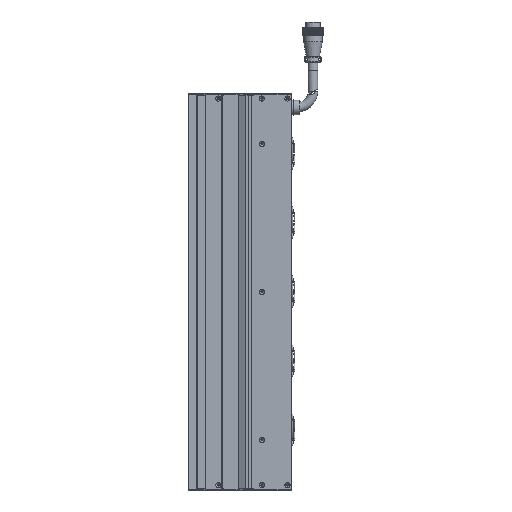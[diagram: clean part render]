
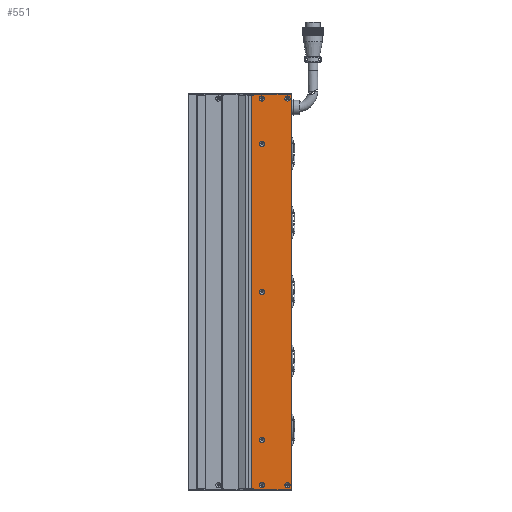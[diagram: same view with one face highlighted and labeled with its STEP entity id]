
A CAD part, left-side view. The second image highlights one B-rep face of the part: STEP entity #551.
In plain terms, the highlighted planar face has unit normal (-1, 0, 0).
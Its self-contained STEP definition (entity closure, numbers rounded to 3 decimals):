
#551 = ADVANCED_FACE ( 'NONE', ( #30343, #67496, #101993, #64863, #99347, #98218, #67621, #34250 ), #45425, .F. ) ;
#941 = CARTESIAN_POINT ( 'NONE',  ( -24.998, -72.5, 239. ) ) ;
#985 = VECTOR ( 'NONE', #12268, 1000. ) ;
#3382 = VECTOR ( 'NONE', #52796, 1000. ) ;
#3433 = AXIS2_PLACEMENT_3D ( 'NONE', #89117, #45786, #11270 ) ;
#5358 = CARTESIAN_POINT ( 'NONE',  ( -24.998, -26.5, 232. ) ) ;
#5385 = EDGE_LOOP ( 'NONE', ( #97738 ) ) ;
#6452 = DIRECTION ( 'NONE',  ( 0., 0., -1. ) ) ;
#8739 = ORIENTED_EDGE ( 'NONE', *, *, #89067, .F. ) ;
#10578 = DIRECTION ( 'NONE',  ( 0., 0., 1. ) ) ;
#10675 = CIRCLE ( 'NONE', #21759, 3.15 ) ;
#10932 = EDGE_CURVE ( 'NONE', #102651, #102651, #10675, .T. ) ;
#11270 = DIRECTION ( 'NONE',  ( 0., 0., -1. ) ) ;
#11345 = LINE ( 'NONE', #19034, #3382 ) ;
#11428 = EDGE_CURVE ( 'NONE', #65502, #65502, #100310, .T. ) ;
#11457 = ORIENTED_EDGE ( 'NONE', *, *, #86121, .F. ) ;
#12268 = DIRECTION ( 'NONE',  ( 0., 0., 1. ) ) ;
#12853 = DIRECTION ( 'NONE',  ( -1., 0., 0. ) ) ;
#13851 = CARTESIAN_POINT ( 'NONE',  ( -24.998, -72., 240.5 ) ) ;
#15540 = LINE ( 'NONE', #107374, #20852 ) ;
#16767 = CARTESIAN_POINT ( 'NONE',  ( -24.998, -23.25, -239. ) ) ;
#17701 = EDGE_LOOP ( 'NONE', ( #34067 ) ) ;
#17783 = ORIENTED_EDGE ( 'NONE', *, *, #77058, .T. ) ;
#19031 = LINE ( 'NONE', #941, #46985 ) ;
#19034 = CARTESIAN_POINT ( 'NONE',  ( -24.998, -72.5, -239. ) ) ;
#19681 = EDGE_LOOP ( 'NONE', ( #80431 ) ) ;
#20852 = VECTOR ( 'NONE', #56501, 1000. ) ;
#20861 = CARTESIAN_POINT ( 'NONE',  ( -24.998, -67.5, 238.15 ) ) ;
#21260 = CARTESIAN_POINT ( 'NONE',  ( -24.998, -36.5, -180. ) ) ;
#21759 = AXIS2_PLACEMENT_3D ( 'NONE', #87915, #45315, #96821 ) ;
#23189 = VERTEX_POINT ( 'NONE', #88355 ) ;
#23509 = LINE ( 'NONE', #104656, #985 ) ;
#25545 = VERTEX_POINT ( 'NONE', #103475 ) ;
#27965 = EDGE_CURVE ( 'NONE', #25545, #25545, #31859, .T. ) ;
#30284 = EDGE_LOOP ( 'NONE', ( #101528 ) ) ;
#30343 = FACE_BOUND ( 'NONE', #96924, .T. ) ;
#30987 = CARTESIAN_POINT ( 'NONE',  ( -24.998, -36.5, 180. ) ) ;
#31859 = CIRCLE ( 'NONE', #90018, 3.15 ) ;
#32627 = CARTESIAN_POINT ( 'NONE',  ( -24.998, -36.5, -231.85 ) ) ;
#32919 = AXIS2_PLACEMENT_3D ( 'NONE', #51743, #85137, #10578 ) ;
#33341 = CARTESIAN_POINT ( 'NONE',  ( -24.998, -67.5, -231.85 ) ) ;
#33745 = AXIS2_PLACEMENT_3D ( 'NONE', #21260, #80685, #38317 ) ;
#34067 = ORIENTED_EDGE ( 'NONE', *, *, #11428, .F. ) ;
#34250 = FACE_OUTER_BOUND ( 'NONE', #40382, .T. ) ;
#36831 = VECTOR ( 'NONE', #6452, 1000. ) ;
#37247 = VERTEX_POINT ( 'NONE', #20861 ) ;
#38317 = DIRECTION ( 'NONE',  ( 0., 0., 1. ) ) ;
#38818 = AXIS2_PLACEMENT_3D ( 'NONE', #94846, #12853, #88868 ) ;
#39692 = CARTESIAN_POINT ( 'NONE',  ( -24.998, -36.5, 235. ) ) ;
#40102 = EDGE_LOOP ( 'NONE', ( #11457 ) ) ;
#40382 = EDGE_LOOP ( 'NONE', ( #74134, #81738, #8739, #82676, #87991, #17783, #71484, #78927 ) ) ;
#40538 = EDGE_CURVE ( 'NONE', #101162, #101162, #77186, .T. ) ;
#43333 = ORIENTED_EDGE ( 'NONE', *, *, #100781, .F. ) ;
#43789 = CARTESIAN_POINT ( 'NONE',  ( -24.998, -36.5, 0. ) ) ;
#44069 = EDGE_CURVE ( 'NONE', #89277, #23189, #11345, .T. ) ;
#45315 = DIRECTION ( 'NONE',  ( -1., 0., 0. ) ) ;
#45425 = PLANE ( 'NONE',  #3433 ) ;
#45786 = DIRECTION ( 'NONE',  ( 1., 0., 0. ) ) ;
#46211 = CARTESIAN_POINT ( 'NONE',  ( -24.998, -72.5, -240.5 ) ) ;
#46450 = VERTEX_POINT ( 'NONE', #87669 ) ;
#46451 = EDGE_CURVE ( 'NONE', #48101, #48101, #61373, .T. ) ;
#46985 = VECTOR ( 'NONE', #93278, 1000. ) ;
#48101 = VERTEX_POINT ( 'NONE', #70466 ) ;
#49557 = EDGE_CURVE ( 'NONE', #91340, #82117, #15540, .T. ) ;
#51743 = CARTESIAN_POINT ( 'NONE',  ( -24.998, -67.5, 235. ) ) ;
#52022 = EDGE_CURVE ( 'NONE', #82553, #23189, #83058, .T. ) ;
#52796 = DIRECTION ( 'NONE',  ( 0., -1., 0. ) ) ;
#53871 = CARTESIAN_POINT ( 'NONE',  ( -24.998, -23.25, 239. ) ) ;
#54341 = EDGE_CURVE ( 'NONE', #89277, #70320, #106585, .T. ) ;
#55863 = DIRECTION ( 'NONE',  ( -1., 0., 0. ) ) ;
#56501 = DIRECTION ( 'NONE',  ( 0., 1., 0. ) ) ;
#59969 = ORIENTED_EDGE ( 'NONE', *, *, #27965, .F. ) ;
#60460 = VECTOR ( 'NONE', #81280, 1000. ) ;
#61373 = CIRCLE ( 'NONE', #65853, 3.15 ) ;
#61418 = VECTOR ( 'NONE', #84937, 1000. ) ;
#64863 = FACE_BOUND ( 'NONE', #30284, .T. ) ;
#65502 = VERTEX_POINT ( 'NONE', #32627 ) ;
#65617 = CARTESIAN_POINT ( 'NONE',  ( -24.998, -26.5, -232. ) ) ;
#65853 = AXIS2_PLACEMENT_3D ( 'NONE', #30987, #55863, #81884 ) ;
#67496 = FACE_BOUND ( 'NONE', #40102, .T. ) ;
#67621 = FACE_BOUND ( 'NONE', #17701, .T. ) ;
#69084 = AXIS2_PLACEMENT_3D ( 'NONE', #43789, #69408, #107597 ) ;
#69408 = DIRECTION ( 'NONE',  ( -1., 0., 0. ) ) ;
#70320 = VERTEX_POINT ( 'NONE', #53871 ) ;
#70466 = CARTESIAN_POINT ( 'NONE',  ( -24.998, -36.5, 183.15 ) ) ;
#70505 = CARTESIAN_POINT ( 'NONE',  ( -24.998, -26.5, 240.5 ) ) ;
#70830 = CARTESIAN_POINT ( 'NONE',  ( -24.998, -36.5, 3.15 ) ) ;
#71484 = ORIENTED_EDGE ( 'NONE', *, *, #98227, .F. ) ;
#74134 = ORIENTED_EDGE ( 'NONE', *, *, #44069, .T. ) ;
#77058 = EDGE_CURVE ( 'NONE', #82117, #92358, #97981, .T. ) ;
#77186 = CIRCLE ( 'NONE', #69084, 3.15 ) ;
#78265 = EDGE_CURVE ( 'NONE', #94051, #91340, #23509, .T. ) ;
#78927 = ORIENTED_EDGE ( 'NONE', *, *, #54341, .F. ) ;
#80431 = ORIENTED_EDGE ( 'NONE', *, *, #10932, .F. ) ;
#80685 = DIRECTION ( 'NONE',  ( -1., 0., 0. ) ) ;
#81280 = DIRECTION ( 'NONE',  ( 0., 0., 1. ) ) ;
#81738 = ORIENTED_EDGE ( 'NONE', *, *, #52022, .F. ) ;
#81884 = DIRECTION ( 'NONE',  ( 0., 0., 1. ) ) ;
#82117 = VERTEX_POINT ( 'NONE', #70505 ) ;
#82553 = VERTEX_POINT ( 'NONE', #84398 ) ;
#82676 = ORIENTED_EDGE ( 'NONE', *, *, #78265, .T. ) ;
#83058 = LINE ( 'NONE', #65617, #60460 ) ;
#84398 = CARTESIAN_POINT ( 'NONE',  ( -24.998, -26.5, -240.5 ) ) ;
#84841 = VECTOR ( 'NONE', #89167, 1000. ) ;
#84937 = DIRECTION ( 'NONE',  ( 0., 0., 1. ) ) ;
#85137 = DIRECTION ( 'NONE',  ( -1., 0., 0. ) ) ;
#86121 = EDGE_CURVE ( 'NONE', #37247, #37247, #101066, .T. ) ;
#87669 = CARTESIAN_POINT ( 'NONE',  ( -24.998, -36.5, -176.85 ) ) ;
#87915 = CARTESIAN_POINT ( 'NONE',  ( -24.998, -67.5, -235. ) ) ;
#87991 = ORIENTED_EDGE ( 'NONE', *, *, #49557, .T. ) ;
#88355 = CARTESIAN_POINT ( 'NONE',  ( -24.998, -26.5, -239. ) ) ;
#88868 = DIRECTION ( 'NONE',  ( 0., 0., 1. ) ) ;
#89067 = EDGE_CURVE ( 'NONE', #94051, #82553, #105225, .T. ) ;
#89117 = CARTESIAN_POINT ( 'NONE',  ( -24.998, -72.5, 239. ) ) ;
#89167 = DIRECTION ( 'NONE',  ( 0., 1., 0. ) ) ;
#89277 = VERTEX_POINT ( 'NONE', #16767 ) ;
#90018 = AXIS2_PLACEMENT_3D ( 'NONE', #39692, #107972, #99069 ) ;
#91340 = VERTEX_POINT ( 'NONE', #13851 ) ;
#92358 = VERTEX_POINT ( 'NONE', #106503 ) ;
#93278 = DIRECTION ( 'NONE',  ( 0., -1., 0. ) ) ;
#94051 = VERTEX_POINT ( 'NONE', #99198 ) ;
#94846 = CARTESIAN_POINT ( 'NONE',  ( -24.998, -36.5, -235. ) ) ;
#96821 = DIRECTION ( 'NONE',  ( 0., 0., 1. ) ) ;
#96924 = EDGE_LOOP ( 'NONE', ( #43333 ) ) ;
#97095 = CIRCLE ( 'NONE', #33745, 3.15 ) ;
#97738 = ORIENTED_EDGE ( 'NONE', *, *, #40538, .F. ) ;
#97981 = LINE ( 'NONE', #5358, #36831 ) ;
#98218 = FACE_BOUND ( 'NONE', #19681, .T. ) ;
#98227 = EDGE_CURVE ( 'NONE', #70320, #92358, #19031, .T. ) ;
#99069 = DIRECTION ( 'NONE',  ( 0., 0., 1. ) ) ;
#99198 = CARTESIAN_POINT ( 'NONE',  ( -24.998, -72., -240.5 ) ) ;
#99347 = FACE_BOUND ( 'NONE', #5385, .T. ) ;
#99548 = EDGE_LOOP ( 'NONE', ( #59969 ) ) ;
#100310 = CIRCLE ( 'NONE', #38818, 3.15 ) ;
#100781 = EDGE_CURVE ( 'NONE', #46450, #46450, #97095, .T. ) ;
#101066 = CIRCLE ( 'NONE', #32919, 3.15 ) ;
#101162 = VERTEX_POINT ( 'NONE', #70830 ) ;
#101528 = ORIENTED_EDGE ( 'NONE', *, *, #46451, .F. ) ;
#101993 = FACE_BOUND ( 'NONE', #99548, .T. ) ;
#102010 = CARTESIAN_POINT ( 'NONE',  ( -24.998, -23.25, -239. ) ) ;
#102651 = VERTEX_POINT ( 'NONE', #33341 ) ;
#103475 = CARTESIAN_POINT ( 'NONE',  ( -24.998, -36.5, 238.15 ) ) ;
#104656 = CARTESIAN_POINT ( 'NONE',  ( -24.998, -72., 239. ) ) ;
#105225 = LINE ( 'NONE', #46211, #84841 ) ;
#106503 = CARTESIAN_POINT ( 'NONE',  ( -24.998, -26.5, 239. ) ) ;
#106585 = LINE ( 'NONE', #102010, #61418 ) ;
#107374 = CARTESIAN_POINT ( 'NONE',  ( -24.998, -72.5, 240.5 ) ) ;
#107597 = DIRECTION ( 'NONE',  ( 0., 0., 1. ) ) ;
#107972 = DIRECTION ( 'NONE',  ( -1., 0., 0. ) ) ;
